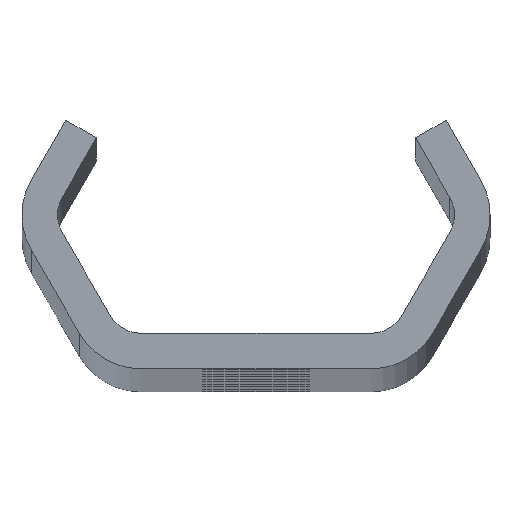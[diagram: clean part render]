
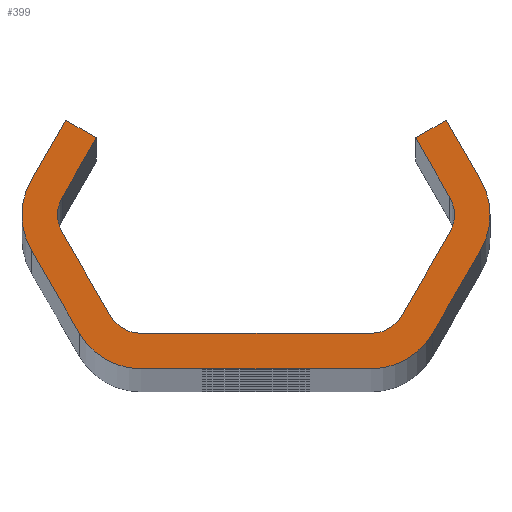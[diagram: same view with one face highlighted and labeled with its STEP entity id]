
A CAD part, top view. The second image highlights one B-rep face of the part: STEP entity #399.
In plain terms, the highlighted planar face has unit normal (0, 0, 1).
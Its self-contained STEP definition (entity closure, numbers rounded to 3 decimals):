
#399=ADVANCED_FACE('NONE',(#1079),#1080,.F.);
#1079=FACE_OUTER_BOUND('',#3381,.T.);
#1080=PLANE('',#3382);
#3381=EDGE_LOOP('',(#6807,#6808,#6809,#6810,#6811,#6812,#6813,#6814,#6815,#6816,#6817,#6818,#6819,#6820,#6821,#6822,#6823,#6824,#6825,#6826,#6827,#6828,#6829,#6830));
#3382=AXIS2_PLACEMENT_3D('',#6831,#6832,#6833);
#6807=ORIENTED_EDGE('',*,*,#9109,.T.);
#6808=ORIENTED_EDGE('',*,*,#9134,.T.);
#6809=ORIENTED_EDGE('',*,*,#8901,.T.);
#6810=ORIENTED_EDGE('',*,*,#9111,.T.);
#6811=ORIENTED_EDGE('',*,*,#9135,.T.);
#6812=ORIENTED_EDGE('',*,*,#9115,.T.);
#6813=ORIENTED_EDGE('',*,*,#9136,.T.);
#6814=ORIENTED_EDGE('',*,*,#8908,.T.);
#6815=ORIENTED_EDGE('',*,*,#9137,.T.);
#6816=ORIENTED_EDGE('',*,*,#8744,.T.);
#6817=ORIENTED_EDGE('',*,*,#8911,.T.);
#6818=ORIENTED_EDGE('',*,*,#8917,.T.);
#6819=ORIENTED_EDGE('',*,*,#8920,.T.);
#6820=ORIENTED_EDGE('',*,*,#8898,.T.);
#6821=ORIENTED_EDGE('',*,*,#9138,.T.);
#6822=ORIENTED_EDGE('',*,*,#8922,.T.);
#6823=ORIENTED_EDGE('',*,*,#9139,.T.);
#6824=ORIENTED_EDGE('',*,*,#8929,.T.);
#6825=ORIENTED_EDGE('',*,*,#9140,.T.);
#6826=ORIENTED_EDGE('',*,*,#9096,.T.);
#6827=ORIENTED_EDGE('',*,*,#9141,.T.);
#6828=ORIENTED_EDGE('',*,*,#8739,.T.);
#6829=ORIENTED_EDGE('',*,*,#9099,.T.);
#6830=ORIENTED_EDGE('',*,*,#9105,.T.);
#6831=CARTESIAN_POINT('',(0.0,0.0,1120.0));
#6832=DIRECTION('',(0.0,0.0,-1.0));
#6833=DIRECTION('',(0.0,-1.0,0.0));
#8739=EDGE_CURVE('NONE',#9752,#9756,#9758,.T.);
#8744=EDGE_CURVE('NONE',#9761,#9765,#9767,.T.);
#8898=EDGE_CURVE('NONE',#10044,#10042,#10045,.T.);
#8901=EDGE_CURVE('NONE',#10048,#10049,#10050,.T.);
#8908=EDGE_CURVE('NONE',#10062,#10060,#10063,.T.);
#8911=EDGE_CURVE('NONE',#9765,#10066,#10067,.T.);
#8917=EDGE_CURVE('NONE',#10066,#10074,#10076,.T.);
#8920=EDGE_CURVE('NONE',#10074,#10044,#10079,.T.);
#8922=EDGE_CURVE('NONE',#10081,#10082,#10083,.T.);
#8929=EDGE_CURVE('NONE',#10095,#10093,#10096,.T.);
#9096=EDGE_CURVE('NONE',#10406,#10404,#10407,.T.);
#9099=EDGE_CURVE('NONE',#9756,#10410,#10411,.T.);
#9105=EDGE_CURVE('NONE',#10410,#10418,#10420,.T.);
#9109=EDGE_CURVE('NONE',#10418,#10424,#10426,.T.);
#9111=EDGE_CURVE('NONE',#10049,#10428,#10429,.T.);
#9115=EDGE_CURVE('NONE',#10434,#10435,#10436,.T.);
#9134=EDGE_CURVE('NONE',#10424,#10048,#10457,.T.);
#9135=EDGE_CURVE('NONE',#10428,#10434,#10458,.T.);
#9136=EDGE_CURVE('NONE',#10435,#10062,#10459,.T.);
#9137=EDGE_CURVE('NONE',#10060,#9761,#10460,.T.);
#9138=EDGE_CURVE('NONE',#10042,#10081,#10461,.T.);
#9139=EDGE_CURVE('NONE',#10082,#10095,#10462,.T.);
#9140=EDGE_CURVE('NONE',#10093,#10406,#10463,.T.);
#9141=EDGE_CURVE('NONE',#10404,#9752,#10464,.T.);
#9752=VERTEX_POINT('',#11255);
#9756=VERTEX_POINT('NONE',#11260);
#9758=CIRCLE('',#11263,3.0);
#9761=VERTEX_POINT('',#11266);
#9765=VERTEX_POINT('NONE',#11271);
#9767=CIRCLE('',#11274,6.0);
#10042=VERTEX_POINT('NONE',#12977);
#10044=VERTEX_POINT('NONE',#12980);
#10045=CIRCLE('',#12981,3.0);
#10048=VERTEX_POINT('NONE',#12985);
#10049=VERTEX_POINT('NONE',#12986);
#10050=CIRCLE('',#12987,6.0);
#10060=VERTEX_POINT('NONE',#13000);
#10062=VERTEX_POINT('NONE',#13003);
#10063=LINE('',#13004,#13005);
#10066=VERTEX_POINT('NONE',#13009);
#10067=LINE('',#13010,#13011);
#10074=VERTEX_POINT('NONE',#13021);
#10076=LINE('',#13024,#13025);
#10079=LINE('',#13029,#13030);
#10081=VERTEX_POINT('NONE',#13032);
#10082=VERTEX_POINT('NONE',#13033);
#10083=LINE('',#13034,#13035);
#10093=VERTEX_POINT('NONE',#13049);
#10095=VERTEX_POINT('NONE',#13052);
#10096=LINE('',#13053,#13054);
#10404=VERTEX_POINT('NONE',#14164);
#10406=VERTEX_POINT('NONE',#14167);
#10407=LINE('',#14168,#14169);
#10410=VERTEX_POINT('NONE',#14173);
#10411=LINE('',#14174,#14175);
#10418=VERTEX_POINT('NONE',#14185);
#10420=LINE('',#14188,#14189);
#10424=VERTEX_POINT('NONE',#14194);
#10426=LINE('',#14197,#14198);
#10428=VERTEX_POINT('NONE',#14200);
#10429=LINE('',#14201,#14202);
#10434=VERTEX_POINT('NONE',#14209);
#10435=VERTEX_POINT('NONE',#14210);
#10436=LINE('',#14211,#14212);
#10457=CIRCLE('',#14236,6.0);
#10458=CIRCLE('',#14237,6.0);
#10459=CIRCLE('',#14238,6.0);
#10460=CIRCLE('',#14239,6.0);
#10461=CIRCLE('',#14240,3.0);
#10462=CIRCLE('',#14241,3.0);
#10463=CIRCLE('',#14242,3.0);
#10464=CIRCLE('',#14243,3.0);
#11255=CARTESIAN_POINT('',(-16.764,0.,1120.0));
#11260=CARTESIAN_POINT('',(-16.362,1.5,1120.0));
#11263=AXIS2_PLACEMENT_3D('',#16837,#16838,#16839);
#11266=CARTESIAN_POINT('',(19.764,0.,1120.0));
#11271=CARTESIAN_POINT('',(18.96,3.,1120.0));
#11274=AXIS2_PLACEMENT_3D('',#16845,#16846,#16847);
#12977=CARTESIAN_POINT('',(16.764,0.,1120.0));
#12980=CARTESIAN_POINT('',(16.362,1.5,1120.0));
#12981=AXIS2_PLACEMENT_3D('',#16996,#16997,#16998);
#12985=CARTESIAN_POINT('',(-19.764,0.,1120.0));
#12986=CARTESIAN_POINT('',(-18.96,-3.,1120.0));
#12987=AXIS2_PLACEMENT_3D('',#17000,#17001,#17002);
#13000=CARTESIAN_POINT('',(18.96,-3.,1120.0));
#13003=CARTESIAN_POINT('',(14.919,-10.,1120.0));
#13004=CARTESIAN_POINT('',(20.692,0.,1120.0));
#13005=VECTOR('',#17010,1000.0);
#13009=CARTESIAN_POINT('',(16.074,8.,1120.0));
#13010=CARTESIAN_POINT('',(16.074,8.,1120.0));
#13011=VECTOR('',#17012,1000.0);
#13021=CARTESIAN_POINT('',(13.475,6.5,1120.0));
#13024=CARTESIAN_POINT('',(13.475,6.5,1120.0));
#13025=VECTOR('',#17017,1000.0);
#13029=CARTESIAN_POINT('',(17.228,0.,1120.0));
#13030=VECTOR('',#17019,1000.0);
#13032=CARTESIAN_POINT('',(16.362,-1.5,1120.0));
#13033=CARTESIAN_POINT('',(12.321,-8.5,1120.0));
#13034=CARTESIAN_POINT('',(11.455,-10.0,1120.0));
#13035=VECTOR('',#17020,1000.0);
#13049=CARTESIAN_POINT('',(-9.723,-10.0,1120.0));
#13052=CARTESIAN_POINT('',(9.723,-10.0,1120.0));
#13053=CARTESIAN_POINT('',(-11.455,-10.0,1120.0));
#13054=VECTOR('',#17026,1000.0);
#14164=CARTESIAN_POINT('',(-16.362,-1.5,1120.0));
#14167=CARTESIAN_POINT('',(-12.321,-8.5,1120.0));
#14168=CARTESIAN_POINT('',(-17.228,0.,1120.0));
#14169=VECTOR('',#17204,1000.0);
#14173=CARTESIAN_POINT('',(-13.475,6.5,1120.0));
#14174=CARTESIAN_POINT('',(-13.475,6.5,1120.0));
#14175=VECTOR('',#17206,1000.0);
#14185=CARTESIAN_POINT('',(-16.074,8.,1120.0));
#14188=CARTESIAN_POINT('',(-13.475,6.5,1120.0));
#14189=VECTOR('',#17211,1000.0);
#14194=CARTESIAN_POINT('',(-18.96,3.,1120.0));
#14197=CARTESIAN_POINT('',(-16.074,8.,1120.0));
#14198=VECTOR('',#17214,1000.0);
#14200=CARTESIAN_POINT('',(-14.919,-10.,1120.0));
#14201=CARTESIAN_POINT('',(-20.692,0.,1120.0));
#14202=VECTOR('',#17215,1000.0);
#14209=CARTESIAN_POINT('',(-9.723,-13.0,1120.0));
#14210=CARTESIAN_POINT('',(9.723,-13.0,1120.0));
#14211=CARTESIAN_POINT('',(-13.187,-13.0,1120.0));
#14212=VECTOR('',#17218,1000.0);
#14236=AXIS2_PLACEMENT_3D('',#17264,#17265,#17266);
#14237=AXIS2_PLACEMENT_3D('',#17267,#17268,#17269);
#14238=AXIS2_PLACEMENT_3D('',#17270,#17271,#17272);
#14239=AXIS2_PLACEMENT_3D('',#17273,#17274,#17275);
#14240=AXIS2_PLACEMENT_3D('',#17276,#17277,#17278);
#14241=AXIS2_PLACEMENT_3D('',#17279,#17280,#17281);
#14242=AXIS2_PLACEMENT_3D('',#17282,#17283,#17284);
#14243=AXIS2_PLACEMENT_3D('',#17285,#17286,#17287);
#16837=CARTESIAN_POINT('',(-13.764,0.,1120.0));
#16838=DIRECTION('',(0.0,0.0,-1.0));
#16839=DIRECTION('',(-1.0,0.0,0.0));
#16845=CARTESIAN_POINT('',(13.764,0.,1120.0));
#16846=DIRECTION('',(0.0,0.0,1.0));
#16847=DIRECTION('',(-1.0,0.0,0.0));
#16996=CARTESIAN_POINT('',(13.764,0.,1120.0));
#16997=DIRECTION('',(0.0,0.0,-1.0));
#16998=DIRECTION('',(-1.0,0.0,0.0));
#17000=CARTESIAN_POINT('',(-13.764,0.,1120.0));
#17001=DIRECTION('',(0.0,0.0,1.0));
#17002=DIRECTION('',(-1.0,0.0,0.0));
#17010=DIRECTION('',(0.5,0.866,-0.0));
#17012=DIRECTION('',(-0.5,0.866,-0.0));
#17017=DIRECTION('',(-0.866,-0.5,-0.0));
#17019=DIRECTION('',(0.5,-0.866,-0.0));
#17020=DIRECTION('',(-0.5,-0.866,-0.0));
#17026=DIRECTION('',(-1.0,0.,-0.0));
#17204=DIRECTION('',(-0.5,0.866,-0.0));
#17206=DIRECTION('',(0.5,0.866,-0.0));
#17211=DIRECTION('',(-0.866,0.5,0.0));
#17214=DIRECTION('',(-0.5,-0.866,0.0));
#17215=DIRECTION('',(0.5,-0.866,0.0));
#17218=DIRECTION('',(1.0,0.0,0.0));
#17264=CARTESIAN_POINT('',(-13.764,0.,1120.0));
#17265=DIRECTION('',(0.0,0.0,1.0));
#17266=DIRECTION('',(-1.0,0.,0.0));
#17267=CARTESIAN_POINT('',(-9.723,-7.0,1120.0));
#17268=DIRECTION('',(0.0,0.0,1.0));
#17269=DIRECTION('',(-1.0,0.0,0.0));
#17270=CARTESIAN_POINT('',(9.723,-7.0,1120.0));
#17271=DIRECTION('',(0.0,0.0,1.0));
#17272=DIRECTION('',(-1.0,0.,0.0));
#17273=CARTESIAN_POINT('',(13.764,0.,1120.0));
#17274=DIRECTION('',(0.0,0.0,1.0));
#17275=DIRECTION('',(-1.0,0.0,0.0));
#17276=CARTESIAN_POINT('',(13.764,0.,1120.0));
#17277=DIRECTION('',(0.0,0.0,-1.0));
#17278=DIRECTION('',(-1.0,0.0,0.0));
#17279=CARTESIAN_POINT('',(9.723,-7.0,1120.0));
#17280=DIRECTION('',(0.0,0.0,-1.0));
#17281=DIRECTION('',(-1.0,0.0,0.0));
#17282=CARTESIAN_POINT('',(-9.723,-7.0,1120.0));
#17283=DIRECTION('',(0.0,0.0,-1.0));
#17284=DIRECTION('',(-1.0,0.0,0.0));
#17285=CARTESIAN_POINT('',(-13.764,0.,1120.0));
#17286=DIRECTION('',(0.0,0.0,-1.0));
#17287=DIRECTION('',(-1.0,0.0,0.0));
